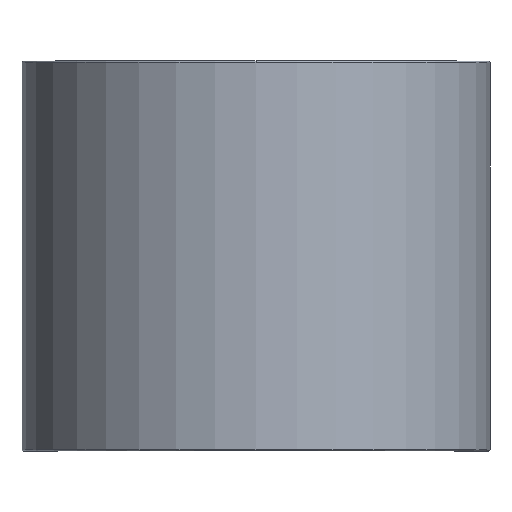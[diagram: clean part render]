
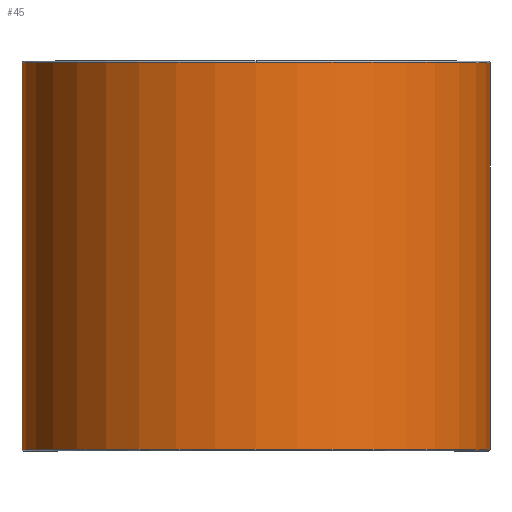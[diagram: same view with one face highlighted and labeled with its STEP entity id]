
A CAD part, top view. The second image highlights one B-rep face of the part: STEP entity #45.
In plain terms, the highlighted cylindrical face has radius 150 mm (diameter 300 mm), a partial arc.
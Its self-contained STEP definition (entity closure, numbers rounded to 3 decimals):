
#26 = AXIS2_PLACEMENT_3D ( 'NONE', #27, #368, #319 ) ;
#27 = CARTESIAN_POINT ( 'NONE',  ( 0., 249., 0. ) ) ;
#28 = DIRECTION ( 'NONE',  ( 0., 1., 0. ) ) ;
#45 = ADVANCED_FACE ( 'NONE', ( #242 ), #345, .T. ) ;
#48 = AXIS2_PLACEMENT_3D ( 'NONE', #443, #320, #484 ) ;
#65 = ORIENTED_EDGE ( 'NONE', *, *, #489, .T. ) ;
#93 = AXIS2_PLACEMENT_3D ( 'NONE', #223, #180, #135 ) ;
#95 = VECTOR ( 'NONE', #318, 1000. ) ;
#98 = CARTESIAN_POINT ( 'NONE',  ( -150., 249., 0. ) ) ;
#115 = VERTEX_POINT ( 'NONE', #303 ) ;
#135 = DIRECTION ( 'NONE',  ( 0., 0., 1. ) ) ;
#146 = CARTESIAN_POINT ( 'NONE',  ( 0., 1., 150. ) ) ;
#152 = EDGE_CURVE ( 'NONE', #115, #467, #234, .T. ) ;
#164 = ORIENTED_EDGE ( 'NONE', *, *, #191, .T. ) ;
#174 = CARTESIAN_POINT ( 'NONE',  ( 0., 1., 0. ) ) ;
#180 = DIRECTION ( 'NONE',  ( 0., -1., 0. ) ) ;
#191 = EDGE_CURVE ( 'NONE', #384, #276, #339, .T. ) ;
#193 = CARTESIAN_POINT ( 'NONE',  ( -150., 250., 0. ) ) ;
#201 = DIRECTION ( 'NONE',  ( 0., 0., 1. ) ) ;
#216 = VERTEX_POINT ( 'NONE', #424 ) ;
#223 = CARTESIAN_POINT ( 'NONE',  ( 0., 249., 0. ) ) ;
#234 = CIRCLE ( 'NONE', #93, 150. ) ;
#242 = FACE_OUTER_BOUND ( 'NONE', #440, .T. ) ;
#246 = EDGE_CURVE ( 'NONE', #115, #216, #255, .T. ) ;
#255 = LINE ( 'NONE', #436, #95 ) ;
#260 = DIRECTION ( 'NONE',  ( 0., 0., 1. ) ) ;
#261 = ORIENTED_EDGE ( 'NONE', *, *, #152, .T. ) ;
#275 = CIRCLE ( 'NONE', #485, 150. ) ;
#276 = VERTEX_POINT ( 'NONE', #146 ) ;
#303 = CARTESIAN_POINT ( 'NONE',  ( 150., 249., 0. ) ) ;
#318 = DIRECTION ( 'NONE',  ( 0., -1., 0. ) ) ;
#319 = DIRECTION ( 'NONE',  ( 0., 0., 1. ) ) ;
#320 = DIRECTION ( 'NONE',  ( 0., -1., 0. ) ) ;
#330 = VERTEX_POINT ( 'NONE', #98 ) ;
#339 = CIRCLE ( 'NONE', #472, 150. ) ;
#345 = CYLINDRICAL_SURFACE ( 'NONE', #48, 150. ) ;
#351 = LINE ( 'NONE', #193, #414 ) ;
#368 = DIRECTION ( 'NONE',  ( 0., -1., 0. ) ) ;
#384 = VERTEX_POINT ( 'NONE', #518 ) ;
#395 = ORIENTED_EDGE ( 'NONE', *, *, #246, .F. ) ;
#405 = CARTESIAN_POINT ( 'NONE',  ( 0., 249., 150. ) ) ;
#414 = VECTOR ( 'NONE', #438, 1000. ) ;
#421 = EDGE_CURVE ( 'NONE', #276, #216, #275, .T. ) ;
#424 = CARTESIAN_POINT ( 'NONE',  ( 150., 1., 0. ) ) ;
#425 = DIRECTION ( 'NONE',  ( 0., 1., 0. ) ) ;
#427 = ORIENTED_EDGE ( 'NONE', *, *, #421, .T. ) ;
#429 = EDGE_CURVE ( 'NONE', #467, #330, #461, .T. ) ;
#436 = CARTESIAN_POINT ( 'NONE',  ( 150., 250., 0. ) ) ;
#438 = DIRECTION ( 'NONE',  ( 0., -1., 0. ) ) ;
#440 = EDGE_LOOP ( 'NONE', ( #65, #164, #427, #395, #261, #480 ) ) ;
#443 = CARTESIAN_POINT ( 'NONE',  ( 0., 250., 0. ) ) ;
#448 = CARTESIAN_POINT ( 'NONE',  ( 0., 1., 0. ) ) ;
#461 = CIRCLE ( 'NONE', #26, 150. ) ;
#467 = VERTEX_POINT ( 'NONE', #405 ) ;
#472 = AXIS2_PLACEMENT_3D ( 'NONE', #174, #425, #260 ) ;
#480 = ORIENTED_EDGE ( 'NONE', *, *, #429, .T. ) ;
#484 = DIRECTION ( 'NONE',  ( 0., 0., -1. ) ) ;
#485 = AXIS2_PLACEMENT_3D ( 'NONE', #448, #28, #201 ) ;
#489 = EDGE_CURVE ( 'NONE', #330, #384, #351, .T. ) ;
#518 = CARTESIAN_POINT ( 'NONE',  ( -150., 1., 0. ) ) ;
